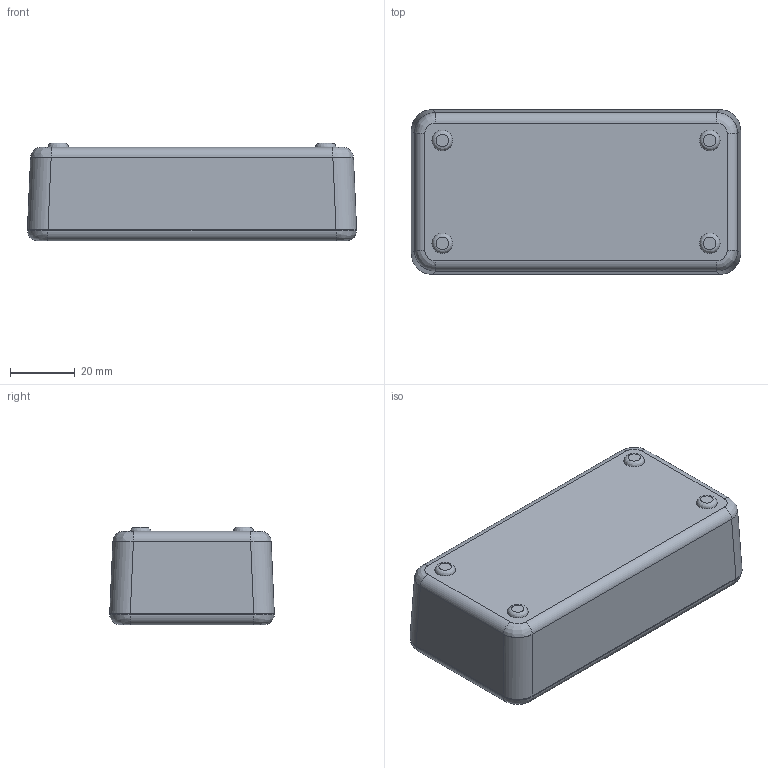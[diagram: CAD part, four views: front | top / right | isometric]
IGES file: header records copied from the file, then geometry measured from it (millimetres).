
Global section: file name: No Iges File Name specified; native system: AutoDesk Inventor R6.0; preprocessor: AutoDesk Inventor Iges Exporter R6.0; author: No Author specified; organization: No Organization specified; date: 20080104.190337; units: inch
Bounding box: 101.6 x 50.8 x 30.1 mm (x, y, z)
Surface area: 41657.4 mm2 (no closed solid volume)
Topology: 0 solids, 0 shells, 227 faces, 1092 edges, 1060 vertices
Faces by surface type: plane 85, bspline 74, revolution 68
